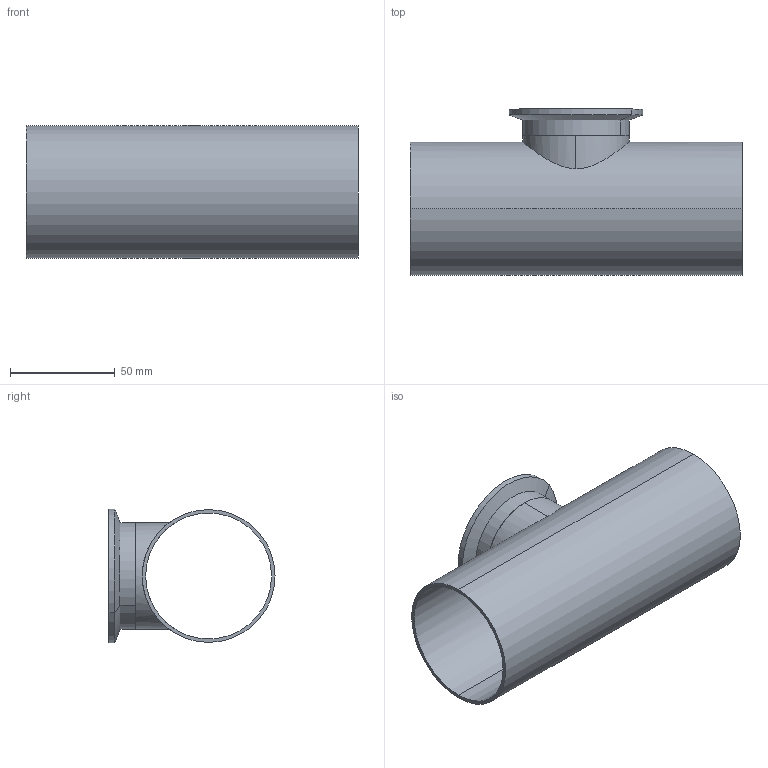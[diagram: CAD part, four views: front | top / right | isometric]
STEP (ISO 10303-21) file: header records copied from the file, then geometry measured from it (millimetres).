
FILE_DESCRIPTION (( 'STEP AP203' ), '1' );
FILE_NAME ('E7RWWCS2.5X2.0.STEP', '2018-04-30T18:53:01', ( 'vneprd' ), ( 'Microsoft' ), 'SwSTEP 2.0', 'SolidWorks 2014', '' );
FILE_SCHEMA (( 'CONFIG_CONTROL_DESIGN' ));
Length unit declared in the file: inch
Products named in the file (1): E7RWWCS2.5X2.0
Bounding box: 158.75 x 79.38 x 63.79 mm (x, y, z)
Volume: 57259.5 mm3; surface area: 68241.2 mm2
Topology: 2 solids, 2 shells, 32 faces, 66 edges, 40 vertices
Faces by surface type: cylinder 14, plane 6, cone 6, torus 6
Entity records: 1205 total; most frequent: CARTESIAN_POINT 407, DIRECTION 170, ORIENTED_EDGE 132, AXIS2_PLACEMENT_3D 75, EDGE_CURVE 66, CIRCLE 42, VERTEX_POINT 40, EDGE_LOOP 40
